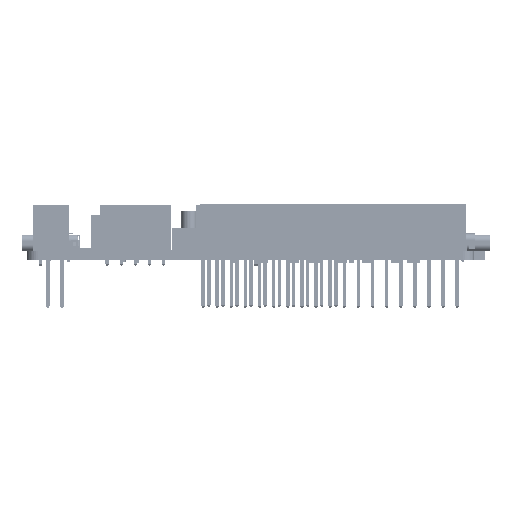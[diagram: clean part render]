
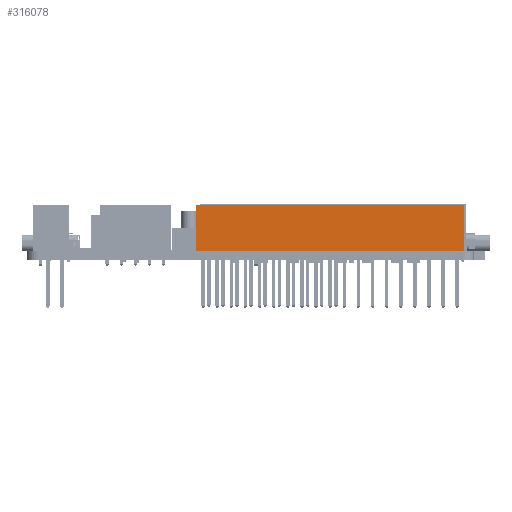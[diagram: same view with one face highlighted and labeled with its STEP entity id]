
A CAD part, left-side view. The second image highlights one B-rep face of the part: STEP entity #316078.
In plain terms, the highlighted planar face has unit normal (-1, 0, 0).
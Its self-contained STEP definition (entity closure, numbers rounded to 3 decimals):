
#315980 = EDGE_CURVE('',#315981,#315983,#315985,.T.);
#315981 = VERTEX_POINT('',#315982);
#315982 = CARTESIAN_POINT('',(-2.545,24.132,0.));
#315983 = VERTEX_POINT('',#315984);
#315984 = CARTESIAN_POINT('',(-2.545,24.132,8.38));
#315985 = LINE('',#315986,#315987);
#315986 = CARTESIAN_POINT('',(-2.545,24.132,0.));
#315987 = VECTOR('',#315988,1.);
#315988 = DIRECTION('',(0.,0.,1.));
#316053 = VERTEX_POINT('',#316054);
#316054 = CARTESIAN_POINT('',(-2.545,-24.132,8.38));
#316060 = EDGE_CURVE('',#316061,#316053,#316063,.T.);
#316061 = VERTEX_POINT('',#316062);
#316062 = CARTESIAN_POINT('',(-2.545,-24.132,0.));
#316063 = LINE('',#316064,#316065);
#316064 = CARTESIAN_POINT('',(-2.545,-24.132,0.));
#316065 = VECTOR('',#316066,1.);
#316066 = DIRECTION('',(0.,0.,1.));
#316078 = ADVANCED_FACE('',(#316079),#316095,.T.);
#316079 = FACE_BOUND('',#316080,.T.);
#316080 = EDGE_LOOP('',(#316081,#316082,#316088,#316089));
#316081 = ORIENTED_EDGE('',*,*,#316060,.T.);
#316082 = ORIENTED_EDGE('',*,*,#316083,.T.);
#316083 = EDGE_CURVE('',#316053,#315983,#316084,.T.);
#316084 = LINE('',#316085,#316086);
#316085 = CARTESIAN_POINT('',(-2.545,-24.132,8.38));
#316086 = VECTOR('',#316087,1.);
#316087 = DIRECTION('',(0.,1.,0.));
#316088 = ORIENTED_EDGE('',*,*,#315980,.F.);
#316089 = ORIENTED_EDGE('',*,*,#316090,.F.);
#316090 = EDGE_CURVE('',#316061,#315981,#316091,.T.);
#316091 = LINE('',#316092,#316093);
#316092 = CARTESIAN_POINT('',(-2.545,-24.132,0.));
#316093 = VECTOR('',#316094,1.);
#316094 = DIRECTION('',(0.,1.,0.));
#316095 = PLANE('',#316096);
#316096 = AXIS2_PLACEMENT_3D('',#316097,#316098,#316099);
#316097 = CARTESIAN_POINT('',(-2.545,-24.132,0.));
#316098 = DIRECTION('',(-1.,0.,0.));
#316099 = DIRECTION('',(0.,1.,0.));
